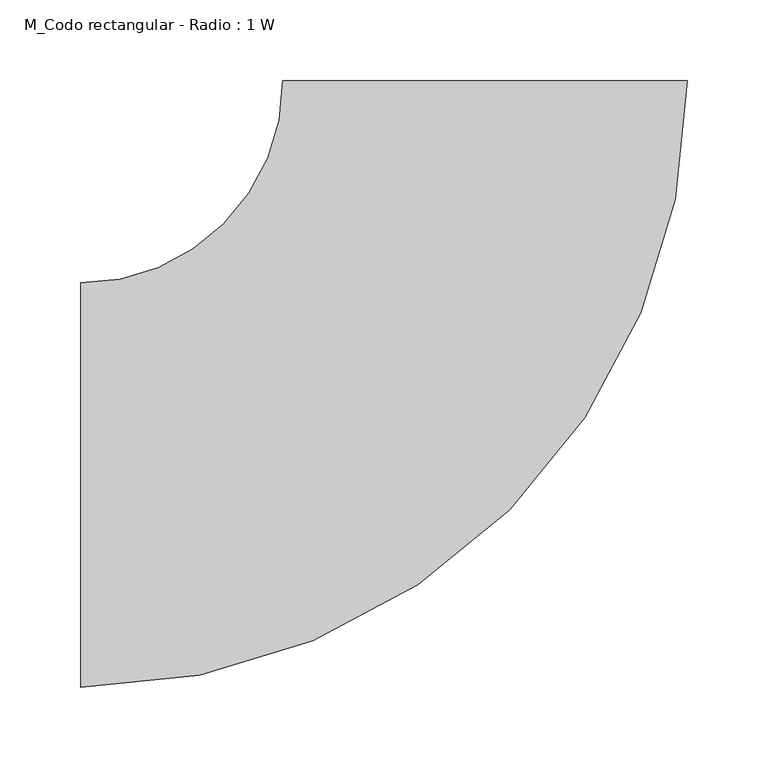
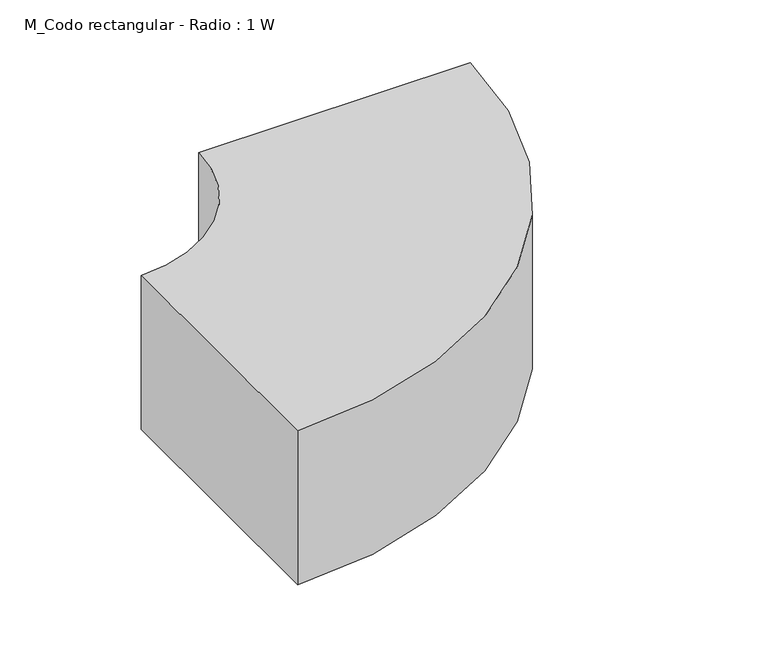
"""IFC4 building model written with IfcOpenShell, lengths in millimetres: duct fitting geometry, M_Codo rectangular - Radio : 1 W."""

from ifc_helpers import new_model, si_unit, point, frame, frame_2d, origin, place, context, project, spatial, polyline, circle_curve, trimmed, segment, composite_curve, outline, extrude, source, transform, mapped, element, save


def m_codo_rectangular_radio_1_w_d95bf4f0(model_context):
    return source(origin(), model_context, "Body", "SweptSolid", [
        extrude(outline(composite_curve([segment(trimmed(circle_curve(frame_2d((-250.0, 250.0)), 375.0), [point((125.0, 250.0))], [point((-250.0, -125.0))], False, "CARTESIAN"), True, "CONTINUOUS"), segment(polyline([(-250.0, -125.0), (-250.0, 125.0)]), True, "CONTINUOUS"), segment(trimmed(circle_curve(frame_2d((-250.0, 250.0)), 125.0), [point((-250.0, 125.0))], [point((-125.0, 250.0))], True, "CARTESIAN"), True, "CONTINUOUS"), segment(polyline([(-125.0, 250.0), (125.0, 250.0)]), True, "CONTINUOUS")], self_intersect=False)), frame((0.0, 0.0, -75.0), z_axis=(0.0, 0.0, 1.0), x_axis=(1.0, 0.0, 0.0)), (0.0, 0.0, 1.0), 150.0),
    ])


if __name__ == "__main__":
    model = new_model("IFC4")
    model_context = context("Model", 3, world=origin())
    ifc_project = project(units=[si_unit("LENGTHUNIT", "METRE", prefix="MILLI")], contexts=[model_context])
    site = spatial("IfcSite", under=ifc_project)
    building = spatial("IfcBuilding", under=site)
    placement = place(None, origin())
    m_codo_rectangular_radio_1_w_shape = m_codo_rectangular_radio_1_w_d95bf4f0(model_context)
    element("IfcDuctFitting", 1, ObjectType="M_Codo rectangular - Radio : 1 W", at=placement, inside=building, context=model_context, shape_type="MappedRepresentation", body=[
        mapped(m_codo_rectangular_radio_1_w_shape, transform((0.0, 0.0, 0.0), x_axis=(1.0, 0.0, 0.0), y_axis=(0.0, 1.0, 0.0), z_axis=(0.0, 0.0, 1.0))),
    ])
    save(model, "model.ifc")
